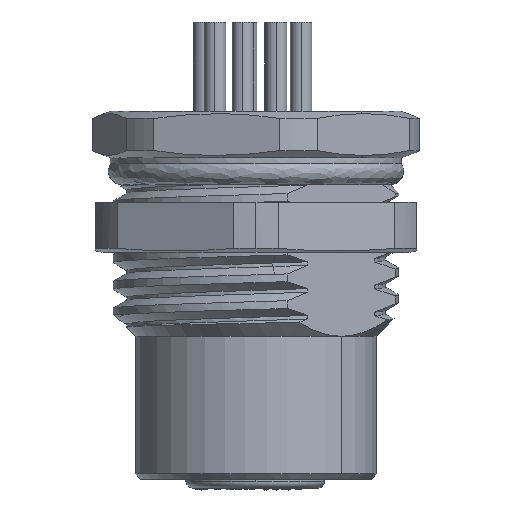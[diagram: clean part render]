
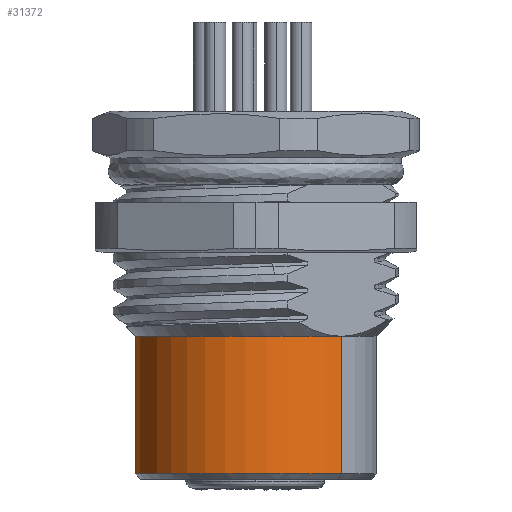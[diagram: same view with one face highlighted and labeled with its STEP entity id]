
A CAD part, front view. The second image highlights one B-rep face of the part: STEP entity #31372.
In plain terms, the highlighted cylindrical face has radius 6.75 mm (diameter 13.5 mm), a partial arc.
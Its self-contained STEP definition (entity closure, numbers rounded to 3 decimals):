
#234 = ORIENTED_EDGE ( 'NONE', *, *, #17824, .T. ) ;
#2605 = AXIS2_PLACEMENT_3D ( 'NONE', #30610, #27486, #24233 ) ;
#3219 = CIRCLE ( 'NONE', #14688, 6.75 ) ;
#3696 = EDGE_CURVE ( 'NONE', #39448, #37599, #23686, .T. ) ;
#3785 = CARTESIAN_POINT ( 'NONE',  ( 0., 0., -7.7 ) ) ;
#5937 = CARTESIAN_POINT ( 'NONE',  ( -4.773, 4.773, 0. ) ) ;
#10193 = ORIENTED_EDGE ( 'NONE', *, *, #3696, .T. ) ;
#10695 = CARTESIAN_POINT ( 'NONE',  ( 4.773, -4.773, -7.7 ) ) ;
#10979 = ORIENTED_EDGE ( 'NONE', *, *, #11905, .F. ) ;
#11905 = EDGE_CURVE ( 'NONE', #13685, #23588, #3219, .T. ) ;
#13546 = FACE_OUTER_BOUND ( 'NONE', #26076, .T. ) ;
#13685 = VERTEX_POINT ( 'NONE', #10695 ) ;
#13783 = DIRECTION ( 'NONE',  ( 0., 0., -1. ) ) ;
#14149 = CARTESIAN_POINT ( 'NONE',  ( 4.773, -4.773, 0. ) ) ;
#14612 = CARTESIAN_POINT ( 'NONE',  ( 0., 0., 0. ) ) ;
#14688 = AXIS2_PLACEMENT_3D ( 'NONE', #3785, #16430, #39528 ) ;
#15955 = EDGE_CURVE ( 'NONE', #39448, #13685, #21928, .T. ) ;
#16146 = AXIS2_PLACEMENT_3D ( 'NONE', #14612, #41546, #37305 ) ;
#16308 = ORIENTED_EDGE ( 'NONE', *, *, #15955, .F. ) ;
#16430 = DIRECTION ( 'NONE',  ( 0., 0., -1. ) ) ;
#17377 = CARTESIAN_POINT ( 'NONE',  ( 4.773, -4.773, 0. ) ) ;
#17824 = EDGE_CURVE ( 'NONE', #37599, #23588, #18856, .T. ) ;
#18856 = LINE ( 'NONE', #20300, #29000 ) ;
#20300 = CARTESIAN_POINT ( 'NONE',  ( -4.773, 4.773, 0. ) ) ;
#20619 = DIRECTION ( 'NONE',  ( 0., 0., -1. ) ) ;
#21928 = LINE ( 'NONE', #17377, #26544 ) ;
#22122 = CYLINDRICAL_SURFACE ( 'NONE', #16146, 6.75 ) ;
#23588 = VERTEX_POINT ( 'NONE', #35496 ) ;
#23686 = CIRCLE ( 'NONE', #2605, 6.75 ) ;
#24233 = DIRECTION ( 'NONE',  ( -0.707, -0.707, 0. ) ) ;
#26076 = EDGE_LOOP ( 'NONE', ( #16308, #10193, #234, #10979 ) ) ;
#26544 = VECTOR ( 'NONE', #20619, 1000. ) ;
#27486 = DIRECTION ( 'NONE',  ( 0., 0., -1. ) ) ;
#29000 = VECTOR ( 'NONE', #13783, 1000. ) ;
#30610 = CARTESIAN_POINT ( 'NONE',  ( 0., 0., 0. ) ) ;
#31372 = ADVANCED_FACE ( 'NONE', ( #13546 ), #22122, .T. ) ;
#35496 = CARTESIAN_POINT ( 'NONE',  ( -4.773, 4.773, -7.7 ) ) ;
#37305 = DIRECTION ( 'NONE',  ( -0.707, 0.707, 0. ) ) ;
#37599 = VERTEX_POINT ( 'NONE', #5937 ) ;
#39448 = VERTEX_POINT ( 'NONE', #14149 ) ;
#39528 = DIRECTION ( 'NONE',  ( 0.707, 0.707, 0. ) ) ;
#41546 = DIRECTION ( 'NONE',  ( 0., 0., -1. ) ) ;
